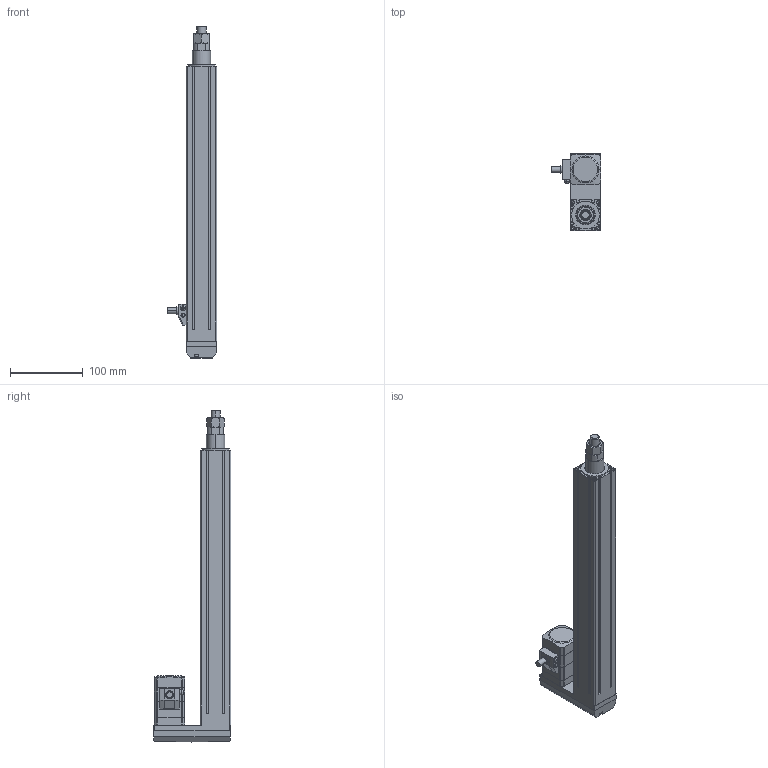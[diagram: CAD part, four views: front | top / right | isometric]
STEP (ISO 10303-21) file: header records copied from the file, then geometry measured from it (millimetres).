
FILE_DESCRIPTION (( 'STEP AP203' ), '1' );
FILE_NAME ('EACM4RD30ARAK.step', '2013-11-01T05:14:19', ( 'om' ), ( 'Hewlett-Packard Company' ), 'SwSTEP 2.0', 'SolidWorks 2011', '' );
FILE_SCHEMA (( 'CONFIG_CONTROL_DESIGN' ));
Length unit declared in the file: millimetre
Products named in the file (5): EACM4RD30ARAK; EACM4RD30ARAK_Rod; EACM4RD30ARAK_BASE; EACM4RD30ARAK_Nut; EACM4RD30ARAK_Motor
Assembly tree (4 placements, depth 2):
  EACM4RD30ARAK
    EACM4RD30ARAK_Nut
    EACM4RD30ARAK_Rod
    EACM4RD30ARAK_Motor
    EACM4RD30ARAK_BASE
Bounding box: 68 x 106.55 x 454.8 mm (x, y, z)
Volume: 816425.7 mm3; surface area: 194739.9 mm2
Topology: 4 solids, 4 shells, 475 faces, 1230 edges, 789 vertices
Faces by surface type: plane 244, cylinder 169, cone 54, bspline 4, torus 4
Entity records: 15191 total; most frequent: CARTESIAN_POINT 2909, DIRECTION 2505, ORIENTED_EDGE 2428, EDGE_CURVE 1214, AXIS2_PLACEMENT_3D 869, VERTEX_POINT 789, VECTOR 767, LINE 767
